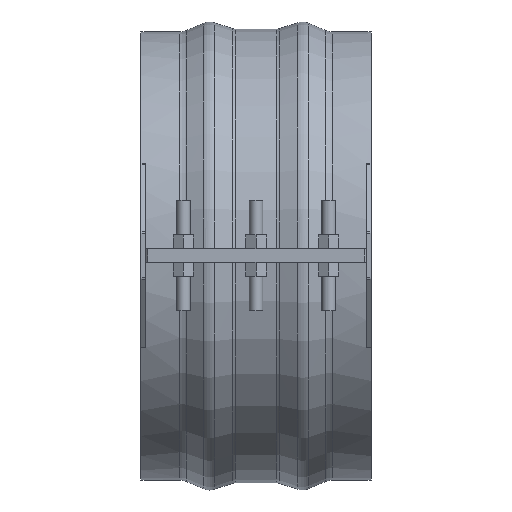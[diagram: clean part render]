
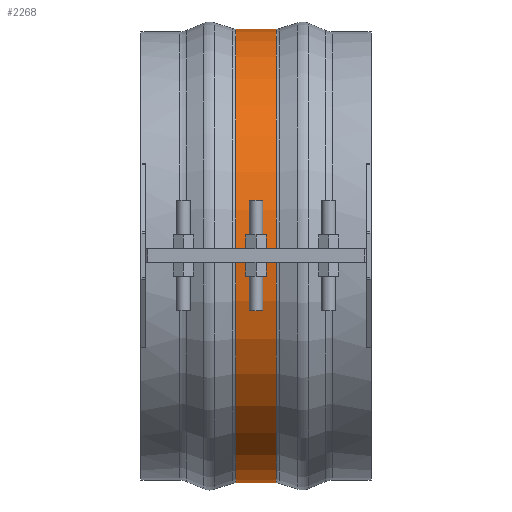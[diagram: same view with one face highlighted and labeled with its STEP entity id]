
A CAD part, top view. The second image highlights one B-rep face of the part: STEP entity #2268.
In plain terms, the highlighted cylindrical face has radius 313.039 mm (diameter 626.079 mm), a partial arc.
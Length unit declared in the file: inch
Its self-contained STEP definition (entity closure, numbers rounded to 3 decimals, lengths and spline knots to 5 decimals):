
#266=FACE_OUTER_BOUND('',#395,.T.);
#395=EDGE_LOOP('',(#1872,#1873,#1874,#1875));
#597=LINE('',#3675,#788);
#602=LINE('',#3760,#793);
#788=VECTOR('',#2968,0.3937);
#793=VECTOR('',#2977,0.3937);
#848=CIRCLE('',#2449,12.32439);
#849=CIRCLE('',#2451,12.32439);
#1054=VERTEX_POINT('',#3667);
#1055=VERTEX_POINT('',#3674);
#1066=VERTEX_POINT('',#3752);
#1067=VERTEX_POINT('',#3759);
#1333=EDGE_CURVE('',#1055,#1054,#597,.T.);
#1348=EDGE_CURVE('',#1067,#1066,#602,.T.);
#1360=EDGE_CURVE('',#1055,#1066,#848,.T.);
#1361=EDGE_CURVE('',#1054,#1067,#849,.T.);
#1872=ORIENTED_EDGE('',*,*,#1333,.T.);
#1873=ORIENTED_EDGE('',*,*,#1361,.T.);
#1874=ORIENTED_EDGE('',*,*,#1348,.T.);
#1875=ORIENTED_EDGE('',*,*,#1360,.F.);
#2053=CYLINDRICAL_SURFACE('',#2450,12.32439);
#2268=ADVANCED_FACE('',(#266),#2053,.T.);
#2449=AXIS2_PLACEMENT_3D('',#3810,#2999,#3000);
#2450=AXIS2_PLACEMENT_3D('',#3811,#3001,#3002);
#2451=AXIS2_PLACEMENT_3D('',#3812,#3003,#3004);
#2968=DIRECTION('',(-1.,0.,0.));
#2977=DIRECTION('',(1.,0.,0.));
#2999=DIRECTION('center_axis',(1.,0.,0.));
#3000=DIRECTION('ref_axis',(0.,0.,-1.));
#3001=DIRECTION('center_axis',(1.,0.,0.));
#3002=DIRECTION('ref_axis',(0.,0.,
-1.));
#3003=DIRECTION('center_axis',(1.,0.,0.));
#3004=DIRECTION('ref_axis',(0.,0.,-1.));
#3667=CARTESIAN_POINT('',(-1.08851,-0.375,12.31868));
#3674=CARTESIAN_POINT('',(1.08851,-0.375,12.31868));
#3675=CARTESIAN_POINT('',(0.,-0.375,12.31868));
#3752=CARTESIAN_POINT('',(1.08851,0.375,12.31868));
#3759=CARTESIAN_POINT('',(-1.08851,0.375,12.31868));
#3760=CARTESIAN_POINT('',(0.,0.375,12.31868));
#3810=CARTESIAN_POINT('Origin',(1.08851,0.,0.));
#3811=CARTESIAN_POINT('Origin',(0.,0.,0.));
#3812=CARTESIAN_POINT('Origin',(-1.08851,0.,
0.));
